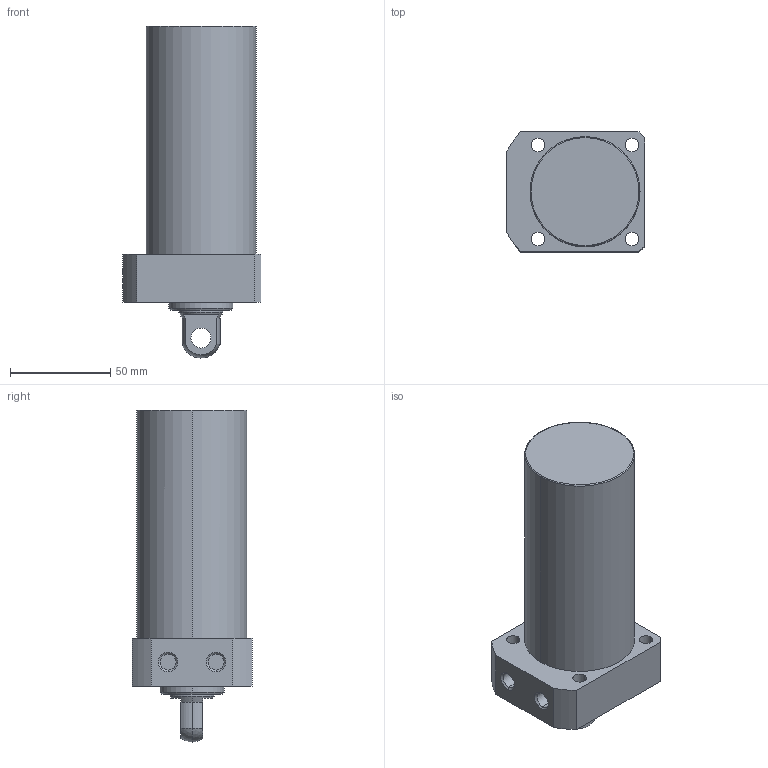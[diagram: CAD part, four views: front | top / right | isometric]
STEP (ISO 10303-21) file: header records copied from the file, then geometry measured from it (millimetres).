
FILE_DESCRIPTION (( 'STEP AP203' ), '1' );
FILE_NAME ('CLLR055-CP-085.STEP', '2017-05-16T03:22:48', ( '' ), ( '' ), 'SwSTEP 2.0', 'SolidWorks 2015', '' );
FILE_SCHEMA (( 'CONFIG_CONTROL_DESIGN' ));
Length unit declared in the file: millimetre
Products named in the file (1): CLLR055-CP-085
Bounding box: 69 x 60 x 166 mm (x, y, z)
Volume: 370368.4 mm3; surface area: 37915.9 mm2
Topology: 1 solids, 1 shells, 59 faces, 139 edges, 89 vertices
Faces by surface type: cylinder 29, plane 18, cone 8, torus 2, sphere 2
Entity records: 1822 total; most frequent: DIRECTION 331, CARTESIAN_POINT 300, ORIENTED_EDGE 278, EDGE_CURVE 139, AXIS2_PLACEMENT_3D 136, VERTEX_POINT 89, EDGE_LOOP 76, CIRCLE 76
